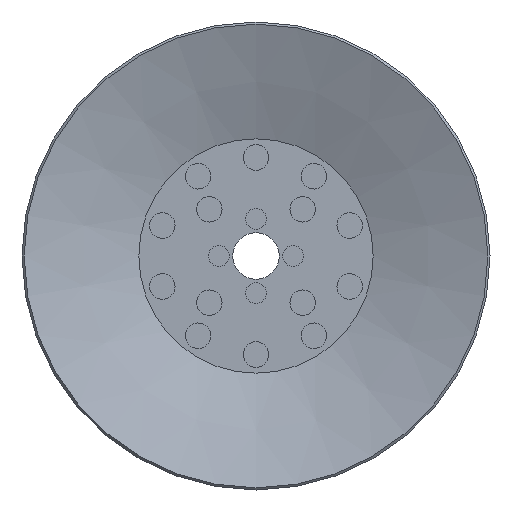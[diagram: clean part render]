
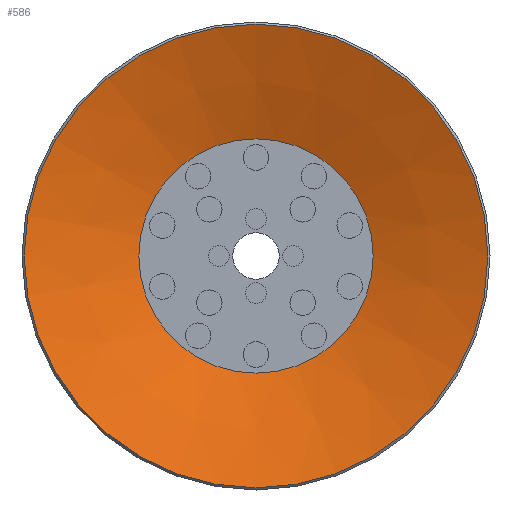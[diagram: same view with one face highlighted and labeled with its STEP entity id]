
A CAD part, front view. The second image highlights one B-rep face of the part: STEP entity #586.
In plain terms, the highlighted conical face has half-angle 70 degrees and reference radius 10 mm.
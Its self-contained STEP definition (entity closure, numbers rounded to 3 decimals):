
#586=ADVANCED_FACE('',(#958,#959),#960,.F.);
#958=FACE_BOUND('',#1654,.T.);
#959=FACE_OUTER_BOUND('',#1655,.T.);
#960=CONICAL_SURFACE('',#1656,10.0,1.222);
#1654=EDGE_LOOP('',(#2687));
#1655=EDGE_LOOP('',(#2688));
#1656=AXIS2_PLACEMENT_3D('',#2689,#2690,#2691);
#2687=ORIENTED_EDGE('',*,*,#3204,.T.);
#2688=ORIENTED_EDGE('',*,*,#3205,.F.);
#2689=CARTESIAN_POINT('',(0.0,0.,0.));
#2690=DIRECTION('',(0.0,0.,-1.0));
#2691=DIRECTION('',(0.0,1.0,0.));
#3204=EDGE_CURVE('',#3665,#3665,#3666,.T.);
#3205=EDGE_CURVE('',#3667,#3667,#3668,.T.);
#3665=VERTEX_POINT('',#4853);
#3666=CIRCLE('',#4854,5.055);
#3667=VERTEX_POINT('',#4855);
#3668=CIRCLE('',#4856,10.0);
#4853=CARTESIAN_POINT('',(0.0,-5.055,1.8));
#4854=AXIS2_PLACEMENT_3D('',#5299,#5300,#5301);
#4855=CARTESIAN_POINT('',(0.0,-10.0,0.));
#4856=AXIS2_PLACEMENT_3D('',#5302,#5303,#5304);
#5299=CARTESIAN_POINT('',(0.0,0.,1.8));
#5300=DIRECTION('',(0.0,0.,1.0));
#5301=DIRECTION('',(0.0,-1.0,0.));
#5302=CARTESIAN_POINT('',(0.0,0.,0.));
#5303=DIRECTION('',(0.0,0.,1.0));
#5304=DIRECTION('',(0.0,-1.0,0.));
